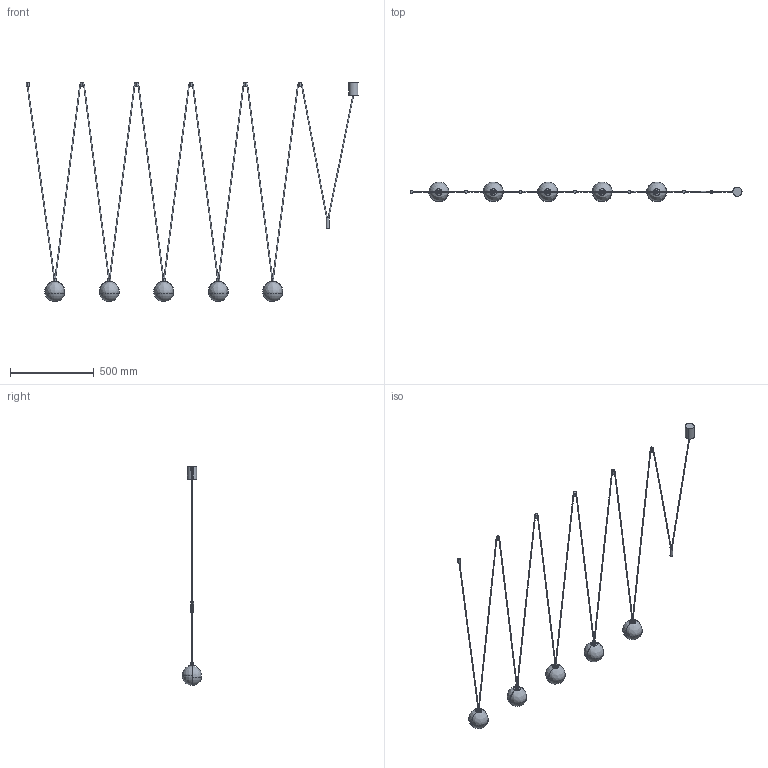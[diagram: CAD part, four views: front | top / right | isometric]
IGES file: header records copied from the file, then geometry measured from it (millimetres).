
Start section: SolidWorks IGES file using analytic representation for surfaces
Global section: file name: C:\Users\anna.bielnik\Desktop\modele 3D tymczasowe\SLING\SLING V\SLING-V-10355 PM.IGS; native system: SolidWorks 2023; preprocessor: SolidWorks 2023; author: anna.bielnik; date: 230616.121114; units: millimetre
Bounding box: 1985.21 x 118.94 x 1309.38 mm (x, y, z)
Surface area: 683728.5 mm2 (no closed solid volume)
Topology: 0 solids, 0 shells, 233 faces, 3794 edges, 3779 vertices
Faces by surface type: revolution 136, bspline 97
